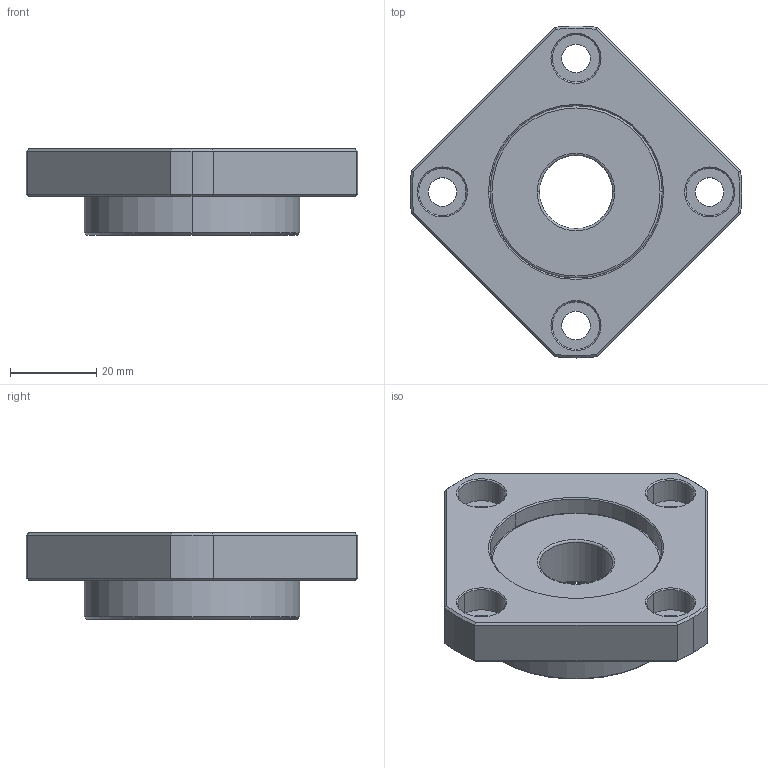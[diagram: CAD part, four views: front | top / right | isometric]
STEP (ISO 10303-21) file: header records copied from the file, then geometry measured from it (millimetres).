
FILE_DESCRIPTION (( 'STEP AP203' ), '1' );
FILE_NAME ('FSGF-17_203.STEP', '2013-02-28T00:09:12', ( '' ), ( '' ), 'SwSTEP 2.0', 'SolidWorks 2012', '' );
FILE_SCHEMA (( 'CONFIG_CONTROL_DESIGN' ));
Length unit declared in the file: millimetre
Products named in the file (1): FSGF-17_203
Bounding box: 76.93 x 77 x 20 mm (x, y, z)
Volume: 41760.9 mm3; surface area: 13269.9 mm2
Topology: 1 solids, 1 shells, 82 faces, 186 edges, 113 vertices
Faces by surface type: cylinder 29, cone 24, plane 21, torus 8
Entity records: 2424 total; most frequent: DIRECTION 441, CARTESIAN_POINT 430, ORIENTED_EDGE 372, AXIS2_PLACEMENT_3D 188, EDGE_CURVE 186, VERTEX_POINT 113, CIRCLE 105, EDGE_LOOP 99
